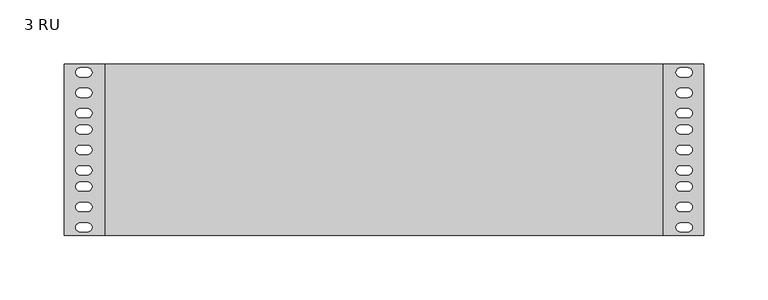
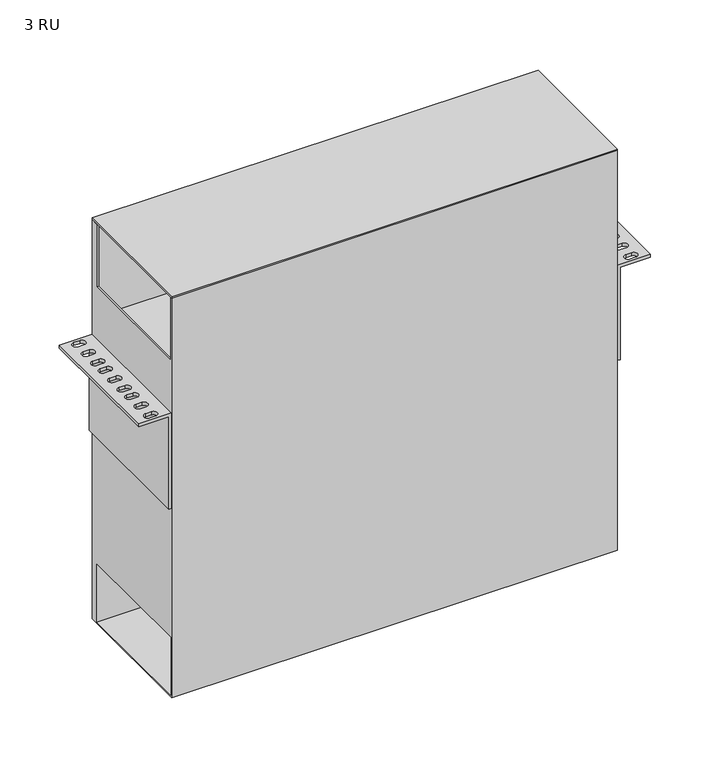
"""IFC4 building model written with IfcOpenShell, lengths in millimetres: electric appliance geometry, Housing-Rack_Mount-Corning-LANScape : 3 RU."""

from ifc_helpers import new_model, si_unit, frame, origin, place, context, project, spatial, polyline, circle_curve, outline, extrude, faceted_brep, source, transform, mapped, element, save
from ifc_brep_helpers import plane_surface, revolved_surface, advanced_brep


def electric_appliance_3_ru_ccd869d3(model_context):
    return source(origin(), model_context, "Body", "SolidModel", [
        extrude(outline(polyline([(216.5858, 0.0), (216.5858, -133.35), (-216.5858, -133.35), (-216.5858, 0.0), (216.5858, 0.0)])), frame((0.0, 0.0, 120.9548), z_axis=(0.0, 0.0, 1.0), x_axis=(1.0, 0.0, 0.0)), (0.0, 0.0, 1.0), 1.39446),
        faceted_brep([(216.5858, -133.35, 120.9548), (-216.5858, -133.35, 120.9548), (-216.5858, -133.35, -289.3568), (216.5858, -133.35, -289.3568), (216.5858, 0.0, 120.9548), (216.5858, 0.0, -289.3568), (-216.5858, 0.0, -289.3568), (-216.5858, 0.0, 120.9548), (216.5858, -131.7625, 120.9548), (-216.5858, -131.7625, 120.9548), (-216.5858, -7.9375, 120.9548), (-214.9983, -7.9375, 120.9548), (-214.9983, -1.5875, 120.9548), (214.9983, -1.5875, 120.9548), (214.9983, -7.9375, 120.9548), (216.5858, -7.9375, 120.9548), (-216.5858, -131.7625, 56.36514), (-216.5858, -7.9375, 56.36514), (-216.5858, -131.7625, -228.39172), (-216.5858, -131.7625, -287.7693), (-216.5858, -7.9375, -287.7693), (-216.5858, -7.9375, -228.39172), (216.5858, -7.9375, 56.36514), (216.5858, -131.7625, 56.36514), (216.5858, -131.7625, -287.7693), (216.5858, -131.7625, -228.39172), (216.5858, -7.9375, -228.39172), (216.5858, -7.9375, -287.7693), (-214.9983, -1.5875, 21.08454), (214.9983, -1.5875, 21.08454), (214.9983, -131.7625, 21.08454), (-214.9983, -131.7625, 21.08454), (-214.9983, -131.7625, 56.36514), (214.9983, -131.7625, 56.36514), (214.9983, -7.9375, 56.36514), (-214.9983, -7.9375, 56.36514)], [[[0, 1, 2, 3]], [[4, 5, 6, 7]], [[1, 0, 8, 9]], [[4, 7, 10, 11, 12, 13, 14, 15]], [[2, 1, 9, 16, 17, 10, 7, 6], [18, 19, 20, 21]], [[3, 2, 6, 5]], [[0, 3, 5, 4, 15, 22, 23, 8], [24, 25, 26, 27]], [[12, 28, 29, 13]], [[30, 31, 32, 16, 9, 8, 23, 33]], [[13, 29, 30, 33, 34, 14]], [[29, 28, 31, 30]], [[28, 12, 11, 35, 32, 31]], [[18, 25, 24, 19]], [[19, 24, 27, 20]], [[20, 27, 26, 21]], [[25, 18, 21, 26]], [[16, 32, 35, 17]], [[33, 23, 22, 34]], [[34, 22, 15, 14]], [[17, 35, 11, 10]]]),
        advanced_brep(
        [(-248.4374, -133.35, 0.0), (-219.45346, -133.35, 0.0), (-219.45346, -133.35, -94.74708), (-216.5858, -133.35, -94.74708), (-216.5858, -133.35, 3.05054), (-248.4374, -133.35, 3.05054), (-248.4374, 0.0, 0.0), (-248.4374, 0.0, 3.05054), (-216.5858, 0.0, 3.05054), (-216.5858, 0.0, -94.74708), (-219.45346, 0.0, -94.74708), (-219.45346, 0.0, 0.0), (-230.40594, -2.794, 0.0), (-235.99394, -2.794, 0.0), (-235.99394, -9.906, 0.0), (-230.40594, -9.906, 0.0), (-230.40594, -18.669, 0.0), (-235.99394, -18.669, 0.0), (-235.99394, -25.781, 0.0), (-230.40594, -25.781, 0.0), (-230.40594, -34.544, 0.0), (-235.99394, -34.544, 0.0), (-235.99394, -41.656, 0.0), (-230.40594, -41.656, 0.0), (-230.40594, -47.244, 0.0), (-235.99394, -47.244, 0.0), (-235.99394, -54.356, 0.0), (-230.40594, -54.356, 0.0), (-230.40594, -63.119, 0.0), (-235.99394, -63.119, 0.0), (-235.99394, -70.231, 0.0), (-230.40594, -70.231, 0.0), (-230.40594, -78.994, 0.0), (-235.99394, -78.994, 0.0), (-235.99394, -86.106, 0.0), (-230.40594, -86.106, 0.0), (-230.40594, -91.694, 0.0), (-235.99394, -91.694, 0.0), (-235.99394, -98.806, 0.0), (-230.40594, -98.806, 0.0), (-230.40594, -107.569, 0.0), (-235.99394, -107.569, 0.0), (-235.99394, -114.681, 0.0), (-230.40594, -114.681, 0.0), (-230.40594, -123.444, 0.0), (-235.99394, -123.444, 0.0), (-235.99394, -130.556, 0.0), (-230.40594, -130.556, 0.0), (-235.99394, -2.794, 3.05054), (-230.40594, -2.794, 3.05054), (-230.40594, -9.906, 3.05054), (-235.99394, -9.906, 3.05054), (-235.99394, -18.669, 3.05054), (-230.40594, -18.669, 3.05054), (-230.40594, -25.781, 3.05054), (-235.99394, -25.781, 3.05054), (-235.99394, -34.544, 3.05054), (-230.40594, -34.544, 3.05054), (-230.40594, -41.656, 3.05054), (-235.99394, -41.656, 3.05054), (-235.99394, -47.244, 3.05054), (-230.40594, -47.244, 3.05054), (-230.40594, -54.356, 3.05054), (-235.99394, -54.356, 3.05054), (-235.99394, -63.119, 3.05054), (-230.40594, -63.119, 3.05054), (-230.40594, -70.231, 3.05054), (-235.99394, -70.231, 3.05054), (-235.99394, -78.994, 3.05054), (-230.40594, -78.994, 3.05054), (-230.40594, -86.106, 3.05054), (-235.99394, -86.106, 3.05054), (-235.99394, -91.694, 3.05054), (-230.40594, -91.694, 3.05054), (-230.40594, -98.806, 3.05054), (-235.99394, -98.806, 3.05054), (-235.99394, -107.569, 3.05054), (-230.40594, -107.569, 3.05054), (-230.40594, -114.681, 3.05054), (-235.99394, -114.681, 3.05054), (-235.99394, -123.444, 3.05054), (-230.40594, -123.444, 3.05054), (-230.40594, -130.556, 3.05054), (-235.99394, -130.556, 3.05054)],
        [
            (0, 1),
            (1, 2),
            (2, 3),
            (3, 4),
            (4, 5),
            (5, 0),
            (6, 7),
            (7, 8),
            (8, 9),
            (9, 10),
            (10, 11),
            (11, 6),
            (0, 6),
            (11, 1),
            (12, 13),
            (13, 14, circle_curve(frame((-235.99394, -6.35, 0.0), z_axis=(0.0, 0.0, 1.0), x_axis=(-1.0, 0.0, 0.0)), 3.556)),
            (14, 15),
            (15, 12, circle_curve(frame((-230.40594, -6.35, 0.0), z_axis=(0.0, 0.0, 1.0), x_axis=(-1.0, 0.0, 0.0)), 3.556)),
            (16, 17),
            (17, 18, circle_curve(frame((-235.99394, -22.225, 0.0), z_axis=(0.0, 0.0, 1.0), x_axis=(-1.0, 0.0, 0.0)), 3.556)),
            (18, 19),
            (19, 16, circle_curve(frame((-230.40594, -22.225, 0.0), z_axis=(0.0, 0.0, 1.0), x_axis=(-1.0, 0.0, 0.0)), 3.556)),
            (20, 21),
            (21, 22, circle_curve(frame((-235.99394, -38.1, 0.0), z_axis=(0.0, 0.0, 1.0), x_axis=(-1.0, 0.0, 0.0)), 3.556)),
            (22, 23),
            (23, 20, circle_curve(frame((-230.40594, -38.1, 0.0), z_axis=(0.0, 0.0, 1.0), x_axis=(-1.0, 0.0, 0.0)), 3.556)),
            (24, 25),
            (25, 26, circle_curve(frame((-235.99394, -50.8, 0.0), z_axis=(0.0, 0.0, 1.0), x_axis=(-1.0, 0.0, 0.0)), 3.556)),
            (26, 27),
            (27, 24, circle_curve(frame((-230.40594, -50.8, 0.0), z_axis=(0.0, 0.0, 1.0), x_axis=(-1.0, 0.0, 0.0)), 3.556)),
            (28, 29),
            (29, 30, circle_curve(frame((-235.99394, -66.675, 0.0), z_axis=(0.0, 0.0, 1.0), x_axis=(-1.0, 0.0, 0.0)), 3.556)),
            (30, 31),
            (31, 28, circle_curve(frame((-230.40594, -66.675, 0.0), z_axis=(0.0, 0.0, 1.0), x_axis=(-1.0, 0.0, 0.0)), 3.556)),
            (32, 33),
            (33, 34, circle_curve(frame((-235.99394, -82.55, 0.0), z_axis=(0.0, 0.0, 1.0), x_axis=(-1.0, 0.0, 0.0)), 3.556)),
            (34, 35),
            (35, 32, circle_curve(frame((-230.40594, -82.55, 0.0), z_axis=(0.0, 0.0, 1.0), x_axis=(-1.0, 0.0, 0.0)), 3.556)),
            (36, 37),
            (37, 38, circle_curve(frame((-235.99394, -95.25, 0.0), z_axis=(0.0, 0.0, 1.0), x_axis=(-1.0, 0.0, 0.0)), 3.556)),
            (38, 39),
            (39, 36, circle_curve(frame((-230.40594, -95.25, 0.0), z_axis=(0.0, 0.0, 1.0), x_axis=(-1.0, 0.0, 0.0)), 3.556)),
            (40, 41),
            (41, 42, circle_curve(frame((-235.99394, -111.125, 0.0), z_axis=(0.0, 0.0, 1.0), x_axis=(-1.0, 0.0, 0.0)), 3.556)),
            (42, 43),
            (43, 40, circle_curve(frame((-230.40594, -111.125, 0.0), z_axis=(0.0, 0.0, 1.0), x_axis=(-1.0, 0.0, 0.0)), 3.556)),
            (44, 45),
            (45, 46, circle_curve(frame((-235.99394, -127.0, 0.0), z_axis=(0.0, 0.0, 1.0), x_axis=(-1.0, 0.0, 0.0)), 3.556)),
            (46, 47),
            (47, 44, circle_curve(frame((-230.40594, -127.0, 0.0), z_axis=(0.0, 0.0, 1.0), x_axis=(-1.0, 0.0, 0.0)), 3.556)),
            (10, 2),
            (9, 3),
            (8, 4),
            (7, 5),
            (48, 49),
            (49, 50, circle_curve(frame((-230.40594, -6.35, 3.05054), z_axis=(0.0, 0.0, -1.0), x_axis=(-1.0, 0.0, 0.0)), 3.556)),
            (50, 51),
            (51, 48, circle_curve(frame((-235.99394, -6.35, 3.05054), z_axis=(0.0, 0.0, -1.0), x_axis=(-1.0, 0.0, 0.0)), 3.556)),
            (52, 53),
            (53, 54, circle_curve(frame((-230.40594, -22.225, 3.05054), z_axis=(0.0, 0.0, -1.0), x_axis=(-1.0, 0.0, 0.0)), 3.556)),
            (54, 55),
            (55, 52, circle_curve(frame((-235.99394, -22.225, 3.05054), z_axis=(0.0, 0.0, -1.0), x_axis=(-1.0, 0.0, 0.0)), 3.556)),
            (56, 57),
            (57, 58, circle_curve(frame((-230.40594, -38.1, 3.05054), z_axis=(0.0, 0.0, -1.0), x_axis=(-1.0, 0.0, 0.0)), 3.556)),
            (58, 59),
            (59, 56, circle_curve(frame((-235.99394, -38.1, 3.05054), z_axis=(0.0, 0.0, -1.0), x_axis=(-1.0, 0.0, 0.0)), 3.556)),
            (60, 61),
            (61, 62, circle_curve(frame((-230.40594, -50.8, 3.05054), z_axis=(0.0, 0.0, -1.0), x_axis=(-1.0, 0.0, 0.0)), 3.556)),
            (62, 63),
            (63, 60, circle_curve(frame((-235.99394, -50.8, 3.05054), z_axis=(0.0, 0.0, -1.0), x_axis=(-1.0, 0.0, 0.0)), 3.556)),
            (64, 65),
            (65, 66, circle_curve(frame((-230.40594, -66.675, 3.05054), z_axis=(0.0, 0.0, -1.0), x_axis=(-1.0, 0.0, 0.0)), 3.556)),
            (66, 67),
            (67, 64, circle_curve(frame((-235.99394, -66.675, 3.05054), z_axis=(0.0, 0.0, -1.0), x_axis=(-1.0, 0.0, 0.0)), 3.556)),
            (68, 69),
            (69, 70, circle_curve(frame((-230.40594, -82.55, 3.05054), z_axis=(0.0, 0.0, -1.0), x_axis=(-1.0, 0.0, 0.0)), 3.556)),
            (70, 71),
            (71, 68, circle_curve(frame((-235.99394, -82.55, 3.05054), z_axis=(0.0, 0.0, -1.0), x_axis=(-1.0, 0.0, 0.0)), 3.556)),
            (72, 73),
            (73, 74, circle_curve(frame((-230.40594, -95.25, 3.05054), z_axis=(0.0, 0.0, -1.0), x_axis=(-1.0, 0.0, 0.0)), 3.556)),
            (74, 75),
            (75, 72, circle_curve(frame((-235.99394, -95.25, 3.05054), z_axis=(0.0, 0.0, -1.0), x_axis=(-1.0, 0.0, 0.0)), 3.556)),
            (76, 77),
            (77, 78, circle_curve(frame((-230.40594, -111.125, 3.05054), z_axis=(0.0, 0.0, -1.0), x_axis=(-1.0, 0.0, 0.0)), 3.556)),
            (78, 79),
            (79, 76, circle_curve(frame((-235.99394, -111.125, 3.05054), z_axis=(0.0, 0.0, -1.0), x_axis=(-1.0, 0.0, 0.0)), 3.556)),
            (80, 81),
            (81, 82, circle_curve(frame((-230.40594, -127.0, 3.05054), z_axis=(0.0, 0.0, -1.0), x_axis=(-1.0, 0.0, 0.0)), 3.556)),
            (82, 83),
            (83, 80, circle_curve(frame((-235.99394, -127.0, 3.05054), z_axis=(0.0, 0.0, -1.0), x_axis=(-1.0, 0.0, 0.0)), 3.556)),
            (48, 13),
            (12, 49),
            (51, 14),
            (50, 15),
            (52, 17),
            (16, 53),
            (55, 18),
            (54, 19),
            (56, 21),
            (20, 57),
            (59, 22),
            (58, 23),
            (60, 25),
            (24, 61),
            (63, 26),
            (62, 27),
            (64, 29),
            (28, 65),
            (67, 30),
            (66, 31),
            (68, 33),
            (32, 69),
            (71, 34),
            (70, 35),
            (72, 37),
            (36, 73),
            (75, 38),
            (74, 39),
            (76, 41),
            (40, 77),
            (79, 42),
            (78, 43),
            (80, 45),
            (44, 81),
            (83, 46),
            (82, 47),
        ],
        [
            plane_surface(frame((-216.5858, -133.35, 0.0), z_axis=(0.0, -1.0, 0.0), x_axis=(1.0, 0.0, 0.0))),
            plane_surface(frame((-216.5858, 0.0, 0.0), z_axis=(0.0, 1.0, 0.0), x_axis=(-1.0, 0.0, 0.0))),
            plane_surface(frame((-248.4374, -133.35, 0.0), z_axis=(0.0, 0.0, -1.0), x_axis=(0.0, 1.0, 0.0))),
            plane_surface(frame((-219.45346, -133.35, 0.0), z_axis=(-1.0, 0.0, 0.0), x_axis=(0.0, 1.0, 0.0))),
            plane_surface(frame((-219.45346, -133.35, -94.74708), z_axis=(0.0, 0.0, -1.0), x_axis=(0.0, 1.0, 0.0))),
            plane_surface(frame((-216.5858, -133.35, -94.74708), z_axis=(1.0, 0.0, 0.0), x_axis=(0.0, 1.0, 0.0))),
            plane_surface(frame((-216.5858, -133.35, 3.05054), z_axis=(0.0, 0.0, 1.0), x_axis=(0.0, 1.0, 0.0))),
            plane_surface(frame((-248.4374, -133.35, 3.05054), z_axis=(-1.0, 0.0, 0.0), x_axis=(0.0, 1.0, 0.0))),
            plane_surface(frame((-230.40594, -2.794, 3.05054), z_axis=(0.0, -1.0, 0.0), x_axis=(0.0, 0.0, -1.0))),
            revolved_surface(polyline([(-239.54994000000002, -6.35, 3.05054), (-239.54994000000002, -6.35, 0.0)]), (-235.99394, -6.35, 0.0), (0.0, 0.0, 1.0)),
            plane_surface(frame((-235.99394, -9.906, 3.05054), z_axis=(0.0, 1.0, 0.0), x_axis=(0.0, 0.0, -1.0))),
            revolved_surface(polyline([(-233.96194, -6.35, 3.05054), (-233.96194, -6.35, 0.0)]), (-230.40594, -6.35, 0.0), (0.0, 0.0, 1.0)),
            plane_surface(frame((-230.40594, -18.669, 3.05054), z_axis=(0.0, -1.0, 0.0), x_axis=(0.0, 0.0, -1.0))),
            revolved_surface(polyline([(-239.54994000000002, -22.225, 3.05054), (-239.54994000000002, -22.225, 0.0)]), (-235.99394, -22.225, 0.0), (0.0, 0.0, 1.0)),
            plane_surface(frame((-235.99394, -25.781, 3.05054), z_axis=(0.0, 1.0, 0.0), x_axis=(0.0, 0.0, -1.0))),
            revolved_surface(polyline([(-233.96194, -22.225, 3.05054), (-233.96194, -22.225, 0.0)]), (-230.40594, -22.225, 0.0), (0.0, 0.0, 1.0)),
            plane_surface(frame((-230.40594, -34.544, 3.05054), z_axis=(0.0, -1.0, 0.0), x_axis=(0.0, 0.0, -1.0))),
            revolved_surface(polyline([(-239.54994000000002, -38.1, 3.05054), (-239.54994000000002, -38.1, 0.0)]), (-235.99394, -38.1, 0.0), (0.0, 0.0, 1.0)),
            plane_surface(frame((-235.99394, -41.656, 3.05054), z_axis=(0.0, 1.0, 0.0), x_axis=(0.0, 0.0, -1.0))),
            revolved_surface(polyline([(-233.96194, -38.1, 3.05054), (-233.96194, -38.1, 0.0)]), (-230.40594, -38.1, 0.0), (0.0, 0.0, 1.0)),
            plane_surface(frame((-230.40594, -47.244, 3.05054), z_axis=(0.0, -1.0, 0.0), x_axis=(0.0, 0.0, -1.0))),
            revolved_surface(polyline([(-239.54994000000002, -50.8, 3.05054), (-239.54994000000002, -50.8, 0.0)]), (-235.99394, -50.8, 0.0), (0.0, 0.0, 1.0)),
            plane_surface(frame((-235.99394, -54.356, 3.05054), z_axis=(0.0, 1.0, 0.0), x_axis=(0.0, 0.0, -1.0))),
            revolved_surface(polyline([(-233.96194, -50.8, 3.05054), (-233.96194, -50.8, 0.0)]), (-230.40594, -50.8, 0.0), (0.0, 0.0, 1.0)),
            plane_surface(frame((-230.40594, -63.119, 3.05054), z_axis=(0.0, -1.0, 0.0), x_axis=(0.0, 0.0, -1.0))),
            revolved_surface(polyline([(-239.54994000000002, -66.675, 3.05054), (-239.54994000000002, -66.675, 0.0)]), (-235.99394, -66.675, 0.0), (0.0, 0.0, 1.0)),
            plane_surface(frame((-235.99394, -70.231, 3.05054), z_axis=(0.0, 1.0, 0.0), x_axis=(0.0, 0.0, -1.0))),
            revolved_surface(polyline([(-233.96194, -66.675, 3.05054), (-233.96194, -66.675, 0.0)]), (-230.40594, -66.675, 0.0), (0.0, 0.0, 1.0)),
            plane_surface(frame((-230.40594, -78.994, 3.05054), z_axis=(0.0, -1.0, 0.0), x_axis=(0.0, 0.0, -1.0))),
            revolved_surface(polyline([(-239.54994000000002, -82.55, 3.05054), (-239.54994000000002, -82.55, 0.0)]), (-235.99394, -82.55, 0.0), (0.0, 0.0, 1.0)),
            plane_surface(frame((-235.99394, -86.106, 3.05054), z_axis=(0.0, 1.0, 0.0), x_axis=(0.0, 0.0, -1.0))),
            revolved_surface(polyline([(-233.96194, -82.55, 3.05054), (-233.96194, -82.55, 0.0)]), (-230.40594, -82.55, 0.0), (0.0, 0.0, 1.0)),
            plane_surface(frame((-230.40594, -91.694, 3.05054), z_axis=(0.0, -1.0, 0.0), x_axis=(0.0, 0.0, -1.0))),
            revolved_surface(polyline([(-239.54994000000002, -95.25, 3.05054), (-239.54994000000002, -95.25, 0.0)]), (-235.99394, -95.25, 0.0), (0.0, 0.0, 1.0)),
            plane_surface(frame((-235.99394, -98.806, 3.05054), z_axis=(0.0, 1.0, 0.0), x_axis=(0.0, 0.0, -1.0))),
            revolved_surface(polyline([(-233.96194, -95.25, 3.05054), (-233.96194, -95.25, 0.0)]), (-230.40594, -95.25, 0.0), (0.0, 0.0, 1.0)),
            plane_surface(frame((-230.40594, -107.569, 3.05054), z_axis=(0.0, -1.0, 0.0), x_axis=(0.0, 0.0, -1.0))),
            revolved_surface(polyline([(-239.54994000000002, -111.125, 3.05054), (-239.54994000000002, -111.125, 0.0)]), (-235.99394, -111.125, 0.0), (0.0, 0.0, 1.0)),
            plane_surface(frame((-235.99394, -114.681, 3.05054), z_axis=(0.0, 1.0, 0.0), x_axis=(0.0, 0.0, -1.0))),
            revolved_surface(polyline([(-233.96194, -111.125, 3.05054), (-233.96194, -111.125, 0.0)]), (-230.40594, -111.125, 0.0), (0.0, 0.0, 1.0)),
            plane_surface(frame((-230.40594, -123.444, 3.05054), z_axis=(0.0, -1.0, 0.0), x_axis=(0.0, 0.0, -1.0))),
            revolved_surface(polyline([(-239.54994000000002, -127.0, 3.05054), (-239.54994000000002, -127.0, 0.0)]), (-235.99394, -127.0, 0.0), (0.0, 0.0, 1.0)),
            plane_surface(frame((-235.99394, -130.556, 3.05054), z_axis=(0.0, 1.0, 0.0), x_axis=(0.0, 0.0, -1.0))),
            revolved_surface(polyline([(-233.96194, -127.0, 3.05054), (-233.96194, -127.0, 0.0)]), (-230.40594, -127.0, 0.0), (0.0, 0.0, 1.0)),
        ],
        [
            (0, [[1, 2, 3, 4, 5, 6]]),
            (1, [[7, 8, 9, 10, 11, 12]]),
            (2, [[-1, 13, -12, 14], [15, 16, 17, 18], [19, 20, 21, 22], [23, 24, 25, 26], [27, 28, 29, 30], [31, 32, 33, 34], [35, 36, 37, 38], [39, 40, 41, 42], [43, 44, 45, 46], [47, 48, 49, 50]]),
            (3, [[-2, -14, -11, 51]]),
            (4, [[-3, -51, -10, 52]]),
            (5, [[-4, -52, -9, 53]]),
            (6, [[-5, -53, -8, 54], [55, 56, 57, 58], [59, 60, 61, 62], [63, 64, 65, 66], [67, 68, 69, 70], [71, 72, 73, 74], [75, 76, 77, 78], [79, 80, 81, 82], [83, 84, 85, 86], [87, 88, 89, 90]]),
            (7, [[-6, -54, -7, -13]]),
            (8, [[91, -15, 92, -55]]),
            (9, [[-91, -58, 93, -16]]),
            (10, [[-93, -57, 94, -17]]),
            (11, [[-92, -18, -94, -56]]),
            (12, [[95, -19, 96, -59]]),
            (13, [[-95, -62, 97, -20]]),
            (14, [[-97, -61, 98, -21]]),
            (15, [[-96, -22, -98, -60]]),
            (16, [[99, -23, 100, -63]]),
            (17, [[-99, -66, 101, -24]]),
            (18, [[-101, -65, 102, -25]]),
            (19, [[-100, -26, -102, -64]]),
            (20, [[103, -27, 104, -67]]),
            (21, [[-103, -70, 105, -28]]),
            (22, [[-105, -69, 106, -29]]),
            (23, [[-104, -30, -106, -68]]),
            (24, [[107, -31, 108, -71]]),
            (25, [[-107, -74, 109, -32]]),
            (26, [[-109, -73, 110, -33]]),
            (27, [[-108, -34, -110, -72]]),
            (28, [[111, -35, 112, -75]]),
            (29, [[-111, -78, 113, -36]]),
            (30, [[-113, -77, 114, -37]]),
            (31, [[-112, -38, -114, -76]]),
            (32, [[115, -39, 116, -79]]),
            (33, [[-115, -82, 117, -40]]),
            (34, [[-117, -81, 118, -41]]),
            (35, [[-116, -42, -118, -80]]),
            (36, [[119, -43, 120, -83]]),
            (37, [[-119, -86, 121, -44]]),
            (38, [[-121, -85, 122, -45]]),
            (39, [[-120, -46, -122, -84]]),
            (40, [[123, -47, 124, -87]]),
            (41, [[-123, -90, 125, -48]]),
            (42, [[-125, -89, 126, -49]]),
            (43, [[-124, -50, -126, -88]]),
        ],
    ),
        advanced_brep(
        [(248.4374, -133.35, 0.0), (248.4374, -133.35, 3.05054), (216.5858, -133.35, 3.05054), (216.5858, -133.35, -94.74708), (219.45346, -133.35, -94.74708), (219.45346, -133.35, 0.0), (248.4374, 0.0, 0.0), (219.45346, 0.0, 0.0), (219.45346, 0.0, -94.74708), (216.5858, 0.0, -94.74708), (216.5858, 0.0, 3.05054), (248.4374, 0.0, 3.05054), (230.40594, -9.906, 3.05054), (230.40594, -2.794, 3.05054), (235.99394, -2.794, 3.05054), (235.99394, -9.906, 3.05054), (230.40594, -25.781, 3.05054), (230.40594, -18.669, 3.05054), (235.99394, -18.669, 3.05054), (235.99394, -25.781, 3.05054), (230.40594, -41.656, 3.05054), (230.40594, -34.544, 3.05054), (235.99394, -34.544, 3.05054), (235.99394, -41.656, 3.05054), (230.40594, -54.356, 3.05054), (230.40594, -47.244, 3.05054), (235.99394, -47.244, 3.05054), (235.99394, -54.356, 3.05054), (230.40594, -70.231, 3.05054), (230.40594, -63.119, 3.05054), (235.99394, -63.119, 3.05054), (235.99394, -70.231, 3.05054), (230.40594, -86.106, 3.05054), (230.40594, -78.994, 3.05054), (235.99394, -78.994, 3.05054), (235.99394, -86.106, 3.05054), (230.40594, -98.806, 3.05054), (230.40594, -91.694, 3.05054), (235.99394, -91.694, 3.05054), (235.99394, -98.806, 3.05054), (230.40594, -114.681, 3.05054), (230.40594, -107.569, 3.05054), (235.99394, -107.569, 3.05054), (235.99394, -114.681, 3.05054), (230.40594, -130.556, 3.05054), (230.40594, -123.444, 3.05054), (235.99394, -123.444, 3.05054), (235.99394, -130.556, 3.05054), (230.40594, -2.794, 0.0), (230.40594, -9.906, 0.0), (235.99394, -9.906, 0.0), (235.99394, -2.794, 0.0), (230.40594, -18.669, 0.0), (230.40594, -25.781, 0.0), (235.99394, -25.781, 0.0), (235.99394, -18.669, 0.0), (230.40594, -34.544, 0.0), (230.40594, -41.656, 0.0), (235.99394, -41.656, 0.0), (235.99394, -34.544, 0.0), (230.40594, -47.244, 0.0), (230.40594, -54.356, 0.0), (235.99394, -54.356, 0.0), (235.99394, -47.244, 0.0), (230.40594, -63.119, 0.0), (230.40594, -70.231, 0.0), (235.99394, -70.231, 0.0), (235.99394, -63.119, 0.0), (230.40594, -78.994, 0.0), (230.40594, -86.106, 0.0), (235.99394, -86.106, 0.0), (235.99394, -78.994, 0.0), (230.40594, -91.694, 0.0), (230.40594, -98.806, 0.0), (235.99394, -98.806, 0.0), (235.99394, -91.694, 0.0), (230.40594, -107.569, 0.0), (230.40594, -114.681, 0.0), (235.99394, -114.681, 0.0), (235.99394, -107.569, 0.0), (230.40594, -123.444, 0.0), (230.40594, -130.556, 0.0), (235.99394, -130.556, 0.0), (235.99394, -123.444, 0.0)],
        [
            (0, 1),
            (1, 2),
            (2, 3),
            (3, 4),
            (4, 5),
            (5, 0),
            (6, 7),
            (7, 8),
            (8, 9),
            (9, 10),
            (10, 11),
            (11, 6),
            (0, 6),
            (11, 1),
            (10, 2),
            (12, 13, circle_curve(frame((230.40594, -6.35, 3.05054), z_axis=(0.0, 0.0, -1.0), x_axis=(-1.0, 0.0, 0.0)), 3.556)),
            (13, 14),
            (14, 15, circle_curve(frame((235.99394, -6.35, 3.05054), z_axis=(0.0, 0.0, -1.0), x_axis=(-1.0, 0.0, 0.0)), 3.556)),
            (15, 12),
            (16, 17, circle_curve(frame((230.40594, -22.225, 3.05054), z_axis=(0.0, 0.0, -1.0), x_axis=(-1.0, 0.0, 0.0)), 3.556)),
            (17, 18),
            (18, 19, circle_curve(frame((235.99394, -22.225, 3.05054), z_axis=(0.0, 0.0, -1.0), x_axis=(-1.0, 0.0, 0.0)), 3.556)),
            (19, 16),
            (20, 21, circle_curve(frame((230.40594, -38.1, 3.05054), z_axis=(0.0, 0.0, -1.0), x_axis=(-1.0, 0.0, 0.0)), 3.556)),
            (21, 22),
            (22, 23, circle_curve(frame((235.99394, -38.1, 3.05054), z_axis=(0.0, 0.0, -1.0), x_axis=(-1.0, 0.0, 0.0)), 3.556)),
            (23, 20),
            (24, 25, circle_curve(frame((230.40594, -50.8, 3.05054), z_axis=(0.0, 0.0, -1.0), x_axis=(-1.0, 0.0, 0.0)), 3.556)),
            (25, 26),
            (26, 27, circle_curve(frame((235.99394, -50.8, 3.05054), z_axis=(0.0, 0.0, -1.0), x_axis=(-1.0, 0.0, 0.0)), 3.556)),
            (27, 24),
            (28, 29, circle_curve(frame((230.40594, -66.675, 3.05054), z_axis=(0.0, 0.0, -1.0), x_axis=(-1.0, 0.0, 0.0)), 3.556)),
            (29, 30),
            (30, 31, circle_curve(frame((235.99394, -66.675, 3.05054), z_axis=(0.0, 0.0, -1.0), x_axis=(-1.0, 0.0, 0.0)), 3.556)),
            (31, 28),
            (32, 33, circle_curve(frame((230.40594, -82.55, 3.05054), z_axis=(0.0, 0.0, -1.0), x_axis=(-1.0, 0.0, 0.0)), 3.556)),
            (33, 34),
            (34, 35, circle_curve(frame((235.99394, -82.55, 3.05054), z_axis=(0.0, 0.0, -1.0), x_axis=(-1.0, 0.0, 0.0)), 3.556)),
            (35, 32),
            (36, 37, circle_curve(frame((230.40594, -95.25, 3.05054), z_axis=(0.0, 0.0, -1.0), x_axis=(-1.0, 0.0, 0.0)), 3.556)),
            (37, 38),
            (38, 39, circle_curve(frame((235.99394, -95.25, 3.05054), z_axis=(0.0, 0.0, -1.0), x_axis=(-1.0, 0.0, 0.0)), 3.556)),
            (39, 36),
            (40, 41, circle_curve(frame((230.40594, -111.125, 3.05054), z_axis=(0.0, 0.0, -1.0), x_axis=(-1.0, 0.0, 0.0)), 3.556)),
            (41, 42),
            (42, 43, circle_curve(frame((235.99394, -111.125, 3.05054), z_axis=(0.0, 0.0, -1.0), x_axis=(-1.0, 0.0, 0.0)), 3.556)),
            (43, 40),
            (44, 45, circle_curve(frame((230.40594, -127.0, 3.05054), z_axis=(0.0, 0.0, -1.0), x_axis=(-1.0, 0.0, 0.0)), 3.556)),
            (45, 46),
            (46, 47, circle_curve(frame((235.99394, -127.0, 3.05054), z_axis=(0.0, 0.0, -1.0), x_axis=(-1.0, 0.0, 0.0)), 3.556)),
            (47, 44),
            (9, 3),
            (8, 4),
            (7, 5),
            (48, 49, circle_curve(frame((230.40594, -6.35, 0.0), z_axis=(0.0, 0.0, 1.0), x_axis=(-1.0, 0.0, 0.0)), 3.556)),
            (49, 50),
            (50, 51, circle_curve(frame((235.99394, -6.35, 0.0), z_axis=(0.0, 0.0, 1.0), x_axis=(-1.0, 0.0, 0.0)), 3.556)),
            (51, 48),
            (52, 53, circle_curve(frame((230.40594, -22.225, 0.0), z_axis=(0.0, 0.0, 1.0), x_axis=(-1.0, 0.0, 0.0)), 3.556)),
            (53, 54),
            (54, 55, circle_curve(frame((235.99394, -22.225, 0.0), z_axis=(0.0, 0.0, 1.0), x_axis=(-1.0, 0.0, 0.0)), 3.556)),
            (55, 52),
            (56, 57, circle_curve(frame((230.40594, -38.1, 0.0), z_axis=(0.0, 0.0, 1.0), x_axis=(-1.0, 0.0, 0.0)), 3.556)),
            (57, 58),
            (58, 59, circle_curve(frame((235.99394, -38.1, 0.0), z_axis=(0.0, 0.0, 1.0), x_axis=(-1.0, 0.0, 0.0)), 3.556)),
            (59, 56),
            (60, 61, circle_curve(frame((230.40594, -50.8, 0.0), z_axis=(0.0, 0.0, 1.0), x_axis=(-1.0, 0.0, 0.0)), 3.556)),
            (61, 62),
            (62, 63, circle_curve(frame((235.99394, -50.8, 0.0), z_axis=(0.0, 0.0, 1.0), x_axis=(-1.0, 0.0, 0.0)), 3.556)),
            (63, 60),
            (64, 65, circle_curve(frame((230.40594, -66.675, 0.0), z_axis=(0.0, 0.0, 1.0), x_axis=(-1.0, 0.0, 0.0)), 3.556)),
            (65, 66),
            (66, 67, circle_curve(frame((235.99394, -66.675, 0.0), z_axis=(0.0, 0.0, 1.0), x_axis=(-1.0, 0.0, 0.0)), 3.556)),
            (67, 64),
            (68, 69, circle_curve(frame((230.40594, -82.55, 0.0), z_axis=(0.0, 0.0, 1.0), x_axis=(-1.0, 0.0, 0.0)), 3.556)),
            (69, 70),
            (70, 71, circle_curve(frame((235.99394, -82.55, 0.0), z_axis=(0.0, 0.0, 1.0), x_axis=(-1.0, 0.0, 0.0)), 3.556)),
            (71, 68),
            (72, 73, circle_curve(frame((230.40594, -95.25, 0.0), z_axis=(0.0, 0.0, 1.0), x_axis=(-1.0, 0.0, 0.0)), 3.556)),
            (73, 74),
            (74, 75, circle_curve(frame((235.99394, -95.25, 0.0), z_axis=(0.0, 0.0, 1.0), x_axis=(-1.0, 0.0, 0.0)), 3.556)),
            (75, 72),
            (76, 77, circle_curve(frame((230.40594, -111.125, 0.0), z_axis=(0.0, 0.0, 1.0), x_axis=(-1.0, 0.0, 0.0)), 3.556)),
            (77, 78),
            (78, 79, circle_curve(frame((235.99394, -111.125, 0.0), z_axis=(0.0, 0.0, 1.0), x_axis=(-1.0, 0.0, 0.0)), 3.556)),
            (79, 76),
            (80, 81, circle_curve(frame((230.40594, -127.0, 0.0), z_axis=(0.0, 0.0, 1.0), x_axis=(-1.0, 0.0, 0.0)), 3.556)),
            (81, 82),
            (82, 83, circle_curve(frame((235.99394, -127.0, 0.0), z_axis=(0.0, 0.0, 1.0), x_axis=(-1.0, 0.0, 0.0)), 3.556)),
            (83, 80),
            (12, 49),
            (48, 13),
            (15, 50),
            (14, 51),
            (16, 53),
            (52, 17),
            (19, 54),
            (18, 55),
            (20, 57),
            (56, 21),
            (23, 58),
            (22, 59),
            (24, 61),
            (60, 25),
            (27, 62),
            (26, 63),
            (28, 65),
            (64, 29),
            (31, 66),
            (30, 67),
            (32, 69),
            (68, 33),
            (35, 70),
            (34, 71),
            (36, 73),
            (72, 37),
            (39, 74),
            (38, 75),
            (40, 77),
            (76, 41),
            (43, 78),
            (42, 79),
            (44, 81),
            (80, 45),
            (47, 82),
            (46, 83),
        ],
        [
            plane_surface(frame((-216.5858, -133.35, 0.0), z_axis=(0.0, -1.0, 0.0), x_axis=(1.0, 0.0, 0.0))),
            plane_surface(frame((-216.5858, 0.0, 0.0), z_axis=(0.0, 1.0, 0.0), x_axis=(-1.0, 0.0, 0.0))),
            plane_surface(frame((248.4374, -133.35, 0.0), z_axis=(1.0, 0.0, 0.0), x_axis=(0.0, 1.0, 0.0))),
            plane_surface(frame((248.4374, -133.35, 3.05054), z_axis=(0.0, 0.0, 1.0), x_axis=(0.0, 1.0, 0.0))),
            plane_surface(frame((216.5858, -133.35, 3.05054), z_axis=(-1.0, 0.0, 0.0), x_axis=(0.0, 1.0, 0.0))),
            plane_surface(frame((216.5858, -133.35, -94.74708), z_axis=(0.0, 0.0, -1.0), x_axis=(0.0, 1.0, 0.0))),
            plane_surface(frame((219.45346, -133.35, -94.74708), z_axis=(1.0, 0.0, 0.0), x_axis=(0.0, 1.0, 0.0))),
            plane_surface(frame((219.45346, -133.35, 0.0), z_axis=(0.0, 0.0, -1.0), x_axis=(0.0, 1.0, 0.0))),
            revolved_surface(polyline([(226.84993999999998, -6.35, 3.05054), (226.84993999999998, -6.35, 0.0)]), (230.40594, -6.35, 0.0), (0.0, 0.0, 1.0)),
            plane_surface(frame((230.40594, -9.906, 3.05054), z_axis=(0.0, 1.0, 0.0), x_axis=(0.0, 0.0, -1.0))),
            revolved_surface(polyline([(232.43794, -6.35, 3.05054), (232.43794, -6.35, 0.0)]), (235.99394, -6.35, 0.0), (0.0, 0.0, 1.0)),
            plane_surface(frame((235.99394, -2.794, 3.05054), z_axis=(0.0, -1.0, 0.0), x_axis=(0.0, 0.0, -1.0))),
            revolved_surface(polyline([(226.84993999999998, -22.225, 3.05054), (226.84993999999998, -22.225, 0.0)]), (230.40594, -22.225, 0.0), (0.0, 0.0, 1.0)),
            plane_surface(frame((230.40594, -25.781, 3.05054), z_axis=(0.0, 1.0, 0.0), x_axis=(0.0, 0.0, -1.0))),
            revolved_surface(polyline([(232.43794, -22.225, 3.05054), (232.43794, -22.225, 0.0)]), (235.99394, -22.225, 0.0), (0.0, 0.0, 1.0)),
            plane_surface(frame((235.99394, -18.669, 3.05054), z_axis=(0.0, -1.0, 0.0), x_axis=(0.0, 0.0, -1.0))),
            revolved_surface(polyline([(226.84993999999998, -38.1, 3.05054), (226.84993999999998, -38.1, 0.0)]), (230.40594, -38.1, 0.0), (0.0, 0.0, 1.0)),
            plane_surface(frame((230.40594, -41.656, 3.05054), z_axis=(0.0, 1.0, 0.0), x_axis=(0.0, 0.0, -1.0))),
            revolved_surface(polyline([(232.43794, -38.1, 3.05054), (232.43794, -38.1, 0.0)]), (235.99394, -38.1, 0.0), (0.0, 0.0, 1.0)),
            plane_surface(frame((235.99394, -34.544, 3.05054), z_axis=(0.0, -1.0, 0.0), x_axis=(0.0, 0.0, -1.0))),
            revolved_surface(polyline([(226.84993999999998, -50.8, 3.05054), (226.84993999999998, -50.8, 0.0)]), (230.40594, -50.8, 0.0), (0.0, 0.0, 1.0)),
            plane_surface(frame((230.40594, -54.356, 3.05054), z_axis=(0.0, 1.0, 0.0), x_axis=(0.0, 0.0, -1.0))),
            revolved_surface(polyline([(232.43794, -50.8, 3.05054), (232.43794, -50.8, 0.0)]), (235.99394, -50.8, 0.0), (0.0, 0.0, 1.0)),
            plane_surface(frame((235.99394, -47.244, 3.05054), z_axis=(0.0, -1.0, 0.0), x_axis=(0.0, 0.0, -1.0))),
            revolved_surface(polyline([(226.84993999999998, -66.675, 3.05054), (226.84993999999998, -66.675, 0.0)]), (230.40594, -66.675, 0.0), (0.0, 0.0, 1.0)),
            plane_surface(frame((230.40594, -70.231, 3.05054), z_axis=(0.0, 1.0, 0.0), x_axis=(0.0, 0.0, -1.0))),
            revolved_surface(polyline([(232.43794, -66.675, 3.05054), (232.43794, -66.675, 0.0)]), (235.99394, -66.675, 0.0), (0.0, 0.0, 1.0)),
            plane_surface(frame((235.99394, -63.119, 3.05054), z_axis=(0.0, -1.0, 0.0), x_axis=(0.0, 0.0, -1.0))),
            revolved_surface(polyline([(226.84993999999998, -82.55, 3.05054), (226.84993999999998, -82.55, 0.0)]), (230.40594, -82.55, 0.0), (0.0, 0.0, 1.0)),
            plane_surface(frame((230.40594, -86.106, 3.05054), z_axis=(0.0, 1.0, 0.0), x_axis=(0.0, 0.0, -1.0))),
            revolved_surface(polyline([(232.43794, -82.55, 3.05054), (232.43794, -82.55, 0.0)]), (235.99394, -82.55, 0.0), (0.0, 0.0, 1.0)),
            plane_surface(frame((235.99394, -78.994, 3.05054), z_axis=(0.0, -1.0, 0.0), x_axis=(0.0, 0.0, -1.0))),
            revolved_surface(polyline([(226.84993999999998, -95.25, 3.05054), (226.84993999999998, -95.25, 0.0)]), (230.40594, -95.25, 0.0), (0.0, 0.0, 1.0)),
            plane_surface(frame((230.40594, -98.806, 3.05054), z_axis=(0.0, 1.0, 0.0), x_axis=(0.0, 0.0, -1.0))),
            revolved_surface(polyline([(232.43794, -95.25, 3.05054), (232.43794, -95.25, 0.0)]), (235.99394, -95.25, 0.0), (0.0, 0.0, 1.0)),
            plane_surface(frame((235.99394, -91.694, 3.05054), z_axis=(0.0, -1.0, 0.0), x_axis=(0.0, 0.0, -1.0))),
            revolved_surface(polyline([(226.84993999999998, -111.125, 3.05054), (226.84993999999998, -111.125, 0.0)]), (230.40594, -111.125, 0.0), (0.0, 0.0, 1.0)),
            plane_surface(frame((230.40594, -114.681, 3.05054), z_axis=(0.0, 1.0, 0.0), x_axis=(0.0, 0.0, -1.0))),
            revolved_surface(polyline([(232.43794, -111.125, 3.05054), (232.43794, -111.125, 0.0)]), (235.99394, -111.125, 0.0), (0.0, 0.0, 1.0)),
            plane_surface(frame((235.99394, -107.569, 3.05054), z_axis=(0.0, -1.0, 0.0), x_axis=(0.0, 0.0, -1.0))),
            revolved_surface(polyline([(226.84993999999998, -127.0, 3.05054), (226.84993999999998, -127.0, 0.0)]), (230.40594, -127.0, 0.0), (0.0, 0.0, 1.0)),
            plane_surface(frame((230.40594, -130.556, 3.05054), z_axis=(0.0, 1.0, 0.0), x_axis=(0.0, 0.0, -1.0))),
            revolved_surface(polyline([(232.43794, -127.0, 3.05054), (232.43794, -127.0, 0.0)]), (235.99394, -127.0, 0.0), (0.0, 0.0, 1.0)),
            plane_surface(frame((235.99394, -123.444, 3.05054), z_axis=(0.0, -1.0, 0.0), x_axis=(0.0, 0.0, -1.0))),
        ],
        [
            (0, [[1, 2, 3, 4, 5, 6]]),
            (1, [[7, 8, 9, 10, 11, 12]]),
            (2, [[-1, 13, -12, 14]]),
            (3, [[-2, -14, -11, 15], [16, 17, 18, 19], [20, 21, 22, 23], [24, 25, 26, 27], [28, 29, 30, 31], [32, 33, 34, 35], [36, 37, 38, 39], [40, 41, 42, 43], [44, 45, 46, 47], [48, 49, 50, 51]]),
            (4, [[-3, -15, -10, 52]]),
            (5, [[-4, -52, -9, 53]]),
            (6, [[-5, -53, -8, 54]]),
            (7, [[-6, -54, -7, -13], [55, 56, 57, 58], [59, 60, 61, 62], [63, 64, 65, 66], [67, 68, 69, 70], [71, 72, 73, 74], [75, 76, 77, 78], [79, 80, 81, 82], [83, 84, 85, 86], [87, 88, 89, 90]]),
            (8, [[91, -55, 92, -16]]),
            (9, [[-91, -19, 93, -56]]),
            (10, [[-93, -18, 94, -57]]),
            (11, [[-92, -58, -94, -17]]),
            (12, [[95, -59, 96, -20]]),
            (13, [[-95, -23, 97, -60]]),
            (14, [[-97, -22, 98, -61]]),
            (15, [[-96, -62, -98, -21]]),
            (16, [[99, -63, 100, -24]]),
            (17, [[-99, -27, 101, -64]]),
            (18, [[-101, -26, 102, -65]]),
            (19, [[-100, -66, -102, -25]]),
            (20, [[103, -67, 104, -28]]),
            (21, [[-103, -31, 105, -68]]),
            (22, [[-105, -30, 106, -69]]),
            (23, [[-104, -70, -106, -29]]),
            (24, [[107, -71, 108, -32]]),
            (25, [[-107, -35, 109, -72]]),
            (26, [[-109, -34, 110, -73]]),
            (27, [[-108, -74, -110, -33]]),
            (28, [[111, -75, 112, -36]]),
            (29, [[-111, -39, 113, -76]]),
            (30, [[-113, -38, 114, -77]]),
            (31, [[-112, -78, -114, -37]]),
            (32, [[115, -79, 116, -40]]),
            (33, [[-115, -43, 117, -80]]),
            (34, [[-117, -42, 118, -81]]),
            (35, [[-116, -82, -118, -41]]),
            (36, [[119, -83, 120, -44]]),
            (37, [[-119, -47, 121, -84]]),
            (38, [[-121, -46, 122, -85]]),
            (39, [[-120, -86, -122, -45]]),
            (40, [[123, -87, 124, -48]]),
            (41, [[-123, -51, 125, -88]]),
            (42, [[-125, -50, 126, -89]]),
            (43, [[-124, -90, -126, -49]]),
        ],
    ),
    ])


if __name__ == "__main__":
    model = new_model("IFC4")
    model_context = context("Model", 3, world=origin())
    ifc_project = project(units=[si_unit("LENGTHUNIT", "METRE", prefix="MILLI")], contexts=[model_context])
    site = spatial("IfcSite", under=ifc_project)
    building = spatial("IfcBuilding", under=site)
    placement = place(None, origin())
    electric_appliance_3_ru_shape = electric_appliance_3_ru_ccd869d3(model_context)
    element("IfcElectricAppliance", 1, ObjectType="Housing-Rack_Mount-Corning-LANScape : 3 RU", at=placement, inside=building, context=model_context, shape_type="MappedRepresentation", body=[
        mapped(electric_appliance_3_ru_shape, transform((0.0, 0.0, 0.0), x_axis=(1.0, 0.0, 0.0), y_axis=(0.0, 1.0, 0.0), z_axis=(0.0, 0.0, 1.0))),
    ])
    save(model, "model.ifc")
